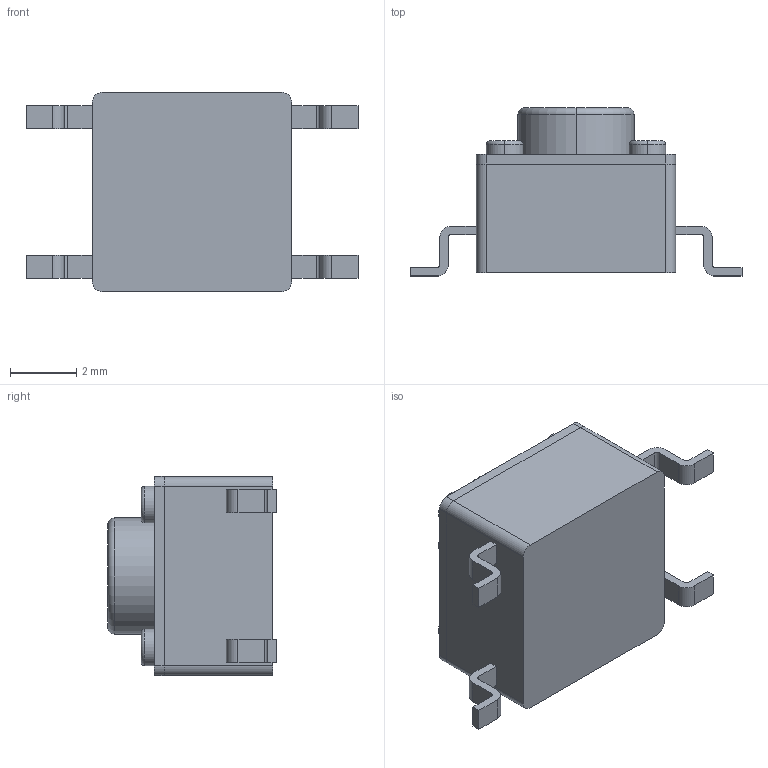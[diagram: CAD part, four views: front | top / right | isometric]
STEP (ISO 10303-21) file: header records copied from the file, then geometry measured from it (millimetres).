
FILE_DESCRIPTION (( 'STEP AP214' ), '1' );
FILE_NAME ('FSM-4J-SMA.STEP', '2025-05-06T23:53:24', ( '' ), ( '' ), 'SwSTEP 2.0', 'SolidWorks 2021', '' );
FILE_SCHEMA (( 'AUTOMOTIVE_DESIGN' ));
Length unit declared in the file: millimetre
Products named in the file (1): FSM-4J-SMA
Bounding box: 10 x 5.07 x 6 mm (x, y, z)
Volume: 145.3 mm3; surface area: 259.6 mm2
Topology: 6 solids, 6 shells, 111 faces, 272 edges, 178 vertices
Faces by surface type: plane 57, cylinder 44, torus 10
Entity records: 3393 total; most frequent: DIRECTION 604, CARTESIAN_POINT 562, ORIENTED_EDGE 544, EDGE_CURVE 272, AXIS2_PLACEMENT_3D 220, VERTEX_POINT 178, LINE 164, VECTOR 164
